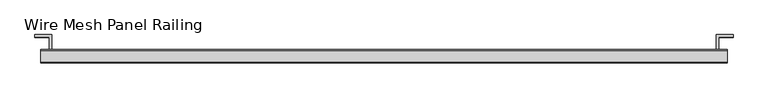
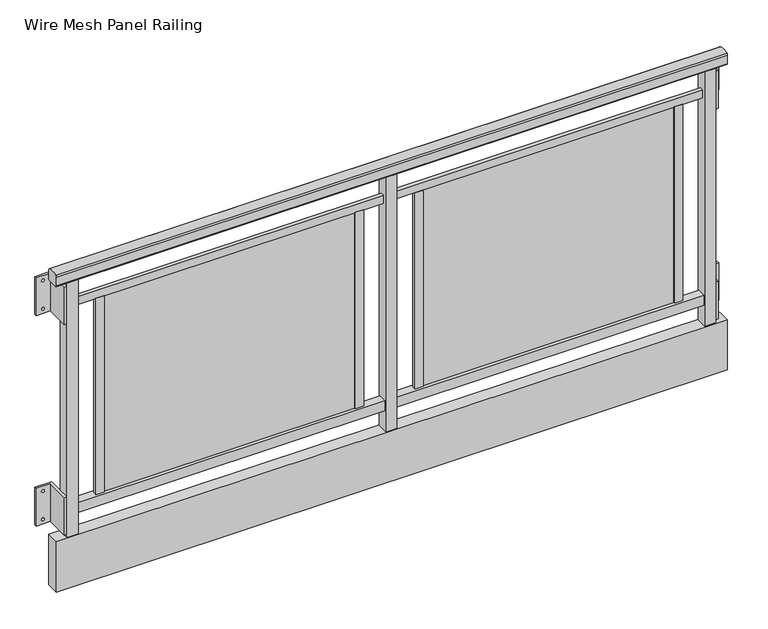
"""IFC4 building model written with IfcOpenShell, lengths in millimetres: proxy geometry, Specialty-Equipment_Endurable-Building-Products_Juliet-Balconies : Wire Mesh Panel Railing."""

from ifc_helpers import new_model, si_unit, point, frame, frame_2d, origin, origin_with_axes, place, context, project, spatial, polyline, circle_curve, trimmed, segment, composite_curve, outline, extrude, source, transform, mapped, element, save
from ifc_brep_helpers import plane_surface, revolved_surface, advanced_brep


def wire_mesh_panel_railing_0f272c87(model_context):
    return source(origin(), model_context, "Body", "SolidModel", [
        extrude(outline(polyline([(97.63125, -73.10755), (129.38125, -73.10755), (129.38125, -87.22995), (97.63125, -87.22995), (97.63125, -73.10755)])), frame((0.0, 0.0, 114.3), z_axis=(0.0, 0.0, 1.0), x_axis=(1.0, 0.0, 0.0)), (0.0, 0.0, 1.0), 802.1066),
        extrude(outline(polyline([(1121.56875, -73.10755), (1121.56875, -87.22995), (1089.81875, -87.22995), (1089.81875, -73.10755), (1121.56875, -73.10755)])), frame((0.0, 0.0, 114.3), z_axis=(0.0, 0.0, 1.0), x_axis=(1.0, 0.0, 0.0)), (0.0, 0.0, 1.0), 802.1066),
        extrude(outline(polyline([(-97.63125, -73.10755), (-97.63125, -87.22995), (-129.38125, -87.22995), (-129.38125, -73.10755), (-97.63125, -73.10755)])), frame((0.0, 0.0, 114.3), z_axis=(0.0, 0.0, 1.0), x_axis=(1.0, 0.0, 0.0)), (0.0, 0.0, 1.0), 802.1066),
        extrude(outline(polyline([(-1121.56875, -73.10755), (-1089.81875, -73.10755), (-1089.81875, -87.22995), (-1121.56875, -87.22995), (-1121.56875, -73.10755)])), frame((0.0, 0.0, 114.3), z_axis=(0.0, 0.0, 1.0), x_axis=(1.0, 0.0, 0.0)), (0.0, 0.0, 1.0), 802.1066),
        extrude(outline(polyline([(1197.76875, -73.10755), (1197.76875, -87.22995), (21.43125, -87.22995), (21.43125, -73.10755), (1197.76875, -73.10755)])), frame((0.0, 0.0, 916.4066), z_axis=(0.0, 0.0, 1.0), x_axis=(1.0, 0.0, 0.0)), (0.0, 0.0, 1.0), 31.75),
        extrude(outline(polyline([(-1197.76875, -73.10755), (-21.43125, -73.10755), (-21.43125, -87.22995), (-1197.76875, -87.22995), (-1197.76875, -73.10755)])), frame((0.0, 0.0, 916.4066), z_axis=(0.0, 0.0, 1.0), x_axis=(1.0, 0.0, 0.0)), (0.0, 0.0, 1.0), 31.75),
        extrude(outline(polyline([(1121.56875, -76.99375), (1121.56875, -83.34375), (97.63125, -83.34375), (97.63125, -76.99375), (1121.56875, -76.99375)])), frame((0.0, 0.0, 122.936), z_axis=(0.0, 0.0, 1.0), x_axis=(1.0, 0.0, 0.0)), (0.0, 0.0, 1.0), 793.4523438),
        extrude(outline(polyline([(-1121.56875, -76.99375), (-97.63125, -76.99375), (-97.63125, -83.34375), (-1121.56875, -83.34375), (-1121.56875, -76.99375)])), frame((0.0, 0.0, 122.936), z_axis=(0.0, 0.0, 1.0), x_axis=(1.0, 0.0, 0.0)), (0.0, 0.0, 1.0), 793.4523437),
        extrude(outline(polyline([(21.43125, -63.86195), (1197.76875, -63.86195), (1197.76875, -96.47555), (21.43125, -96.47555), (21.43125, -63.86195)])), frame((0.0, 0.0, 82.55), z_axis=(0.0, 0.0, 1.0), x_axis=(1.0, 0.0, 0.0)), (0.0, 0.0, 1.0), 40.386),
        extrude(outline(polyline([(-1197.76875, -63.86195), (-21.43125, -63.86195), (-21.43125, -96.47555), (-1197.76875, -96.47555), (-1197.76875, -63.86195)])), frame((0.0, 0.0, 82.55), z_axis=(0.0, 0.0, 1.0), x_axis=(1.0, 0.0, 0.0)), (0.0, 0.0, 1.0), 40.386),
        extrude(outline(polyline([(21.43125, -58.7375), (21.43125, -101.6), (-21.43125, -101.6), (-21.43125, -58.7375), (21.43125, -58.7375)])), origin_with_axes(), (0.0, 0.0, 1.0), 1028.7),
        extrude(outline(polyline([(1282.7, -54.76875), (1282.7, -105.56875), (-1282.7, -105.56875), (-1282.7, -54.76875), (1282.7, -54.76875)])), frame((0.0, 0.0, -203.2), z_axis=(0.0, 0.0, 1.0), x_axis=(1.0, 0.0, 0.0)), (0.0, 0.0, 1.0), 203.2),
        extrude(outline(polyline([(-1197.76875, -58.7375), (-1197.76875, -101.6), (-1240.63125, -101.6), (-1240.63125, -58.7375), (-1197.76875, -58.7375)])), origin_with_axes(), (0.0, 0.0, 1.0), 1028.7),
        extrude(outline(polyline([(1240.63125, -58.7375), (1240.63125, -101.6), (1197.76875, -101.6), (1197.76875, -58.7375), (1240.63125, -58.7375)])), origin_with_axes(), (0.0, 0.0, 1.0), 1028.7),
        extrude(outline(composite_curve([segment(polyline([(-54.76875, 1069.1003287), (-54.76875, 1035.05)]), True, "CONTINUOUS"), segment(trimmed(circle_curve(frame_2d((-61.11875, 1035.05)), 6.35), [point((-54.76875, 1035.05))], [point((-61.11875, 1028.7))], False, "CARTESIAN"), True, "CONTINUOUS"), segment(polyline([(-61.11875, 1028.7), (-99.21875, 1028.7)]), True, "CONTINUOUS"), segment(trimmed(circle_curve(frame_2d((-99.21875, 1035.05)), 6.35), [point((-99.21875, 1028.7))], [point((-105.56875, 1035.05))], False, "CARTESIAN"), True, "CONTINUOUS"), segment(polyline([(-105.56875, 1035.05), (-105.56875, 1069.1003287)]), True, "CONTINUOUS"), segment(trimmed(circle_curve(frame_2d((-99.21875, 1069.1003287)), 6.35), [point((-105.56875, 1069.1003287))], [point((-101.8018008, 1074.9012207))], False, "CARTESIAN"), True, "CONTINUOUS"), segment(trimmed(circle_curve(frame_2d((-80.16875, 1026.31875)), 53.18125), [point((-101.8018008, 1074.9012207))], [point((-58.5356992, 1074.9012207))], False, "CARTESIAN"), True, "CONTINUOUS"), segment(trimmed(circle_curve(frame_2d((-61.11875, 1069.1003287)), 6.35), [point((-58.5356992, 1074.9012207))], [point((-54.76875, 1069.1003287))], False, "CARTESIAN"), True, "CONTINUOUS")], self_intersect=False)), frame((-1282.7, 0.0, 0.0), z_axis=(1.0, 0.0, 0.0), x_axis=(0.0, 1.0, 0.0)), (0.0, 0.0, 1.0), 2565.4),
        advanced_brep(
        [(1240.63125, -101.6, 165.1), (1250.15625, -101.6, 165.1), (1250.15625, -9.525, 165.1), (1304.13125, -9.525, 165.1), (1304.13125, 0.0, 165.1), (1240.63125, 0.0, 165.1), (1240.63125, -101.6, 12.7), (1240.63125, 0.0, 12.7), (1304.13125, 0.0, 12.7), (1304.13125, -9.525, 12.7), (1250.15625, -9.525, 12.7), (1250.15625, -101.6, 12.7), (1273.175, 0.0, 146.05), (1284.2875, 0.0, 146.05), (1273.175, 0.0, 31.75), (1284.2875, 0.0, 31.75), (1284.2875, -9.525, 146.05), (1273.175, -9.525, 146.05), (1284.2875, -9.525, 31.75), (1273.175, -9.525, 31.75)],
        [
            (0, 1),
            (1, 2),
            (2, 3),
            (3, 4),
            (4, 5),
            (5, 0),
            (6, 7),
            (7, 8),
            (8, 9),
            (9, 10),
            (10, 11),
            (11, 6),
            (5, 7),
            (6, 0),
            (4, 8),
            (12, 13, circle_curve(frame((1278.73125, 0.0, 146.05), z_axis=(0.0, -1.0, 0.0), x_axis=(-1.0, 0.0, 0.0)), 5.55625)),
            (13, 12, circle_curve(frame((1278.73125, 0.0, 146.05), z_axis=(0.0, -1.0, 0.0), x_axis=(-1.0, 0.0, 0.0)), 5.55625)),
            (14, 15, circle_curve(frame((1278.73125, 0.0, 31.75), z_axis=(0.0, -1.0, 0.0), x_axis=(-1.0, 0.0, 0.0)), 5.55625)),
            (15, 14, circle_curve(frame((1278.73125, 0.0, 31.75), z_axis=(0.0, -1.0, 0.0), x_axis=(-1.0, 0.0, 0.0)), 5.55625)),
            (3, 9),
            (2, 10),
            (16, 17, circle_curve(frame((1278.73125, -9.525, 146.05), z_axis=(0.0, 1.0, 0.0), x_axis=(-1.0, 0.0, 0.0)), 5.55625)),
            (17, 16, circle_curve(frame((1278.73125, -9.525, 146.05), z_axis=(0.0, 1.0, 0.0), x_axis=(-1.0, 0.0, 0.0)), 5.55625)),
            (18, 19, circle_curve(frame((1278.73125, -9.525, 31.75), z_axis=(0.0, 1.0, 0.0), x_axis=(-1.0, 0.0, 0.0)), 5.55625)),
            (19, 18, circle_curve(frame((1278.73125, -9.525, 31.75), z_axis=(0.0, 1.0, 0.0), x_axis=(-1.0, 0.0, 0.0)), 5.55625)),
            (1, 11),
            (16, 13),
            (12, 17),
            (18, 15),
            (14, 19),
        ],
        [
            plane_surface(frame((1240.63125, -101.6, 165.1), z_axis=(0.0, 0.0, 1.0), x_axis=(1.0, 0.0, 0.0))),
            plane_surface(frame((1240.63125, -101.6, 12.7), z_axis=(0.0, 0.0, -1.0), x_axis=(-1.0, 0.0, 0.0))),
            plane_surface(frame((1240.63125, 0.0, 165.1), z_axis=(-1.0, 0.0, 0.0), x_axis=(0.0, 0.0, -1.0))),
            plane_surface(frame((1304.13125, 0.0, 165.1), z_axis=(0.0, 1.0, 0.0), x_axis=(0.0, 0.0, -1.0))),
            plane_surface(frame((1304.13125, -9.525, 165.1), z_axis=(1.0, 0.0, 0.0), x_axis=(0.0, 0.0, -1.0))),
            plane_surface(frame((1250.15625, -9.525, 165.1), z_axis=(0.0, -1.0, 0.0), x_axis=(0.0, 0.0, -1.0))),
            plane_surface(frame((1250.15625, -101.6, 165.1), z_axis=(1.0, 0.0, 0.0), x_axis=(0.0, 0.0, -1.0))),
            plane_surface(frame((1240.63125, -101.6, 165.1), z_axis=(0.0, -1.0, 0.0), x_axis=(0.0, 0.0, -1.0))),
            revolved_surface(polyline([(1273.175, -9.525, 146.05), (1273.175, 0.0, 146.05)]), (1278.73125, 0.0, 146.05), (0.0, -1.0, 0.0)),
            revolved_surface(polyline([(1273.175, -9.525, 31.75), (1273.175, 0.0, 31.75)]), (1278.73125, 0.0, 31.75), (0.0, -1.0, 0.0)),
        ],
        [
            (0, [[1, 2, 3, 4, 5, 6]]),
            (1, [[7, 8, 9, 10, 11, 12]]),
            (2, [[-6, 13, -7, 14]]),
            (3, [[-5, 15, -8, -13], [16, 17], [18, 19]]),
            (4, [[-4, 20, -9, -15]]),
            (5, [[-3, 21, -10, -20], [22, 23], [24, 25]]),
            (6, [[-2, 26, -11, -21]]),
            (7, [[-1, -14, -12, -26]]),
            (8, [[27, -16, 28, -22]]),
            (8, [[-27, -23, -28, -17]]),
            (9, [[29, -18, 30, -24]]),
            (9, [[-29, -25, -30, -19]]),
        ],
    ),
        advanced_brep(
        [(1240.63125, -101.6, 1016.0), (1250.15625, -101.6, 1016.0), (1250.15625, -9.525, 1016.0), (1304.13125, -9.525, 1016.0), (1304.13125, 0.0, 1016.0), (1240.63125, 0.0, 1016.0), (1240.63125, -101.6, 863.6), (1240.63125, 0.0, 863.6), (1304.13125, 0.0, 863.6), (1304.13125, -9.525, 863.6), (1250.15625, -9.525, 863.6), (1250.15625, -101.6, 863.6), (1273.175, 0.0, 996.95), (1284.2875, 0.0, 996.95), (1273.175, 0.0, 882.65), (1284.2875, 0.0, 882.65), (1284.2875, -9.525, 996.95), (1273.175, -9.525, 996.95), (1284.2875, -9.525, 882.65), (1273.175, -9.525, 882.65)],
        [
            (0, 1),
            (1, 2),
            (2, 3),
            (3, 4),
            (4, 5),
            (5, 0),
            (6, 7),
            (7, 8),
            (8, 9),
            (9, 10),
            (10, 11),
            (11, 6),
            (5, 7),
            (6, 0),
            (4, 8),
            (12, 13, circle_curve(frame((1278.73125, 0.0, 996.95), z_axis=(0.0, -1.0, 0.0), x_axis=(-1.0, 0.0, 0.0)), 5.55625)),
            (13, 12, circle_curve(frame((1278.73125, 0.0, 996.95), z_axis=(0.0, -1.0, 0.0), x_axis=(-1.0, 0.0, 0.0)), 5.55625)),
            (14, 15, circle_curve(frame((1278.73125, 0.0, 882.65), z_axis=(0.0, -1.0, 0.0), x_axis=(-1.0, 0.0, 0.0)), 5.55625)),
            (15, 14, circle_curve(frame((1278.73125, 0.0, 882.65), z_axis=(0.0, -1.0, 0.0), x_axis=(-1.0, 0.0, 0.0)), 5.55625)),
            (3, 9),
            (2, 10),
            (16, 17, circle_curve(frame((1278.73125, -9.525, 996.95), z_axis=(0.0, 1.0, 0.0), x_axis=(-1.0, 0.0, 0.0)), 5.55625)),
            (17, 16, circle_curve(frame((1278.73125, -9.525, 996.95), z_axis=(0.0, 1.0, 0.0), x_axis=(-1.0, 0.0, 0.0)), 5.55625)),
            (18, 19, circle_curve(frame((1278.73125, -9.525, 882.65), z_axis=(0.0, 1.0, 0.0), x_axis=(-1.0, 0.0, 0.0)), 5.55625)),
            (19, 18, circle_curve(frame((1278.73125, -9.525, 882.65), z_axis=(0.0, 1.0, 0.0), x_axis=(-1.0, 0.0, 0.0)), 5.55625)),
            (1, 11),
            (16, 13),
            (12, 17),
            (18, 15),
            (14, 19),
        ],
        [
            plane_surface(frame((1240.63125, -101.6, 1016.0), z_axis=(0.0, 0.0, 1.0), x_axis=(1.0, 0.0, 0.0))),
            plane_surface(frame((1240.63125, -101.6, 863.6), z_axis=(0.0, 0.0, -1.0), x_axis=(-1.0, 0.0, 0.0))),
            plane_surface(frame((1240.63125, 0.0, 1016.0), z_axis=(-1.0, 0.0, 0.0), x_axis=(0.0, 0.0, -1.0))),
            plane_surface(frame((1304.13125, 0.0, 1016.0), z_axis=(0.0, 1.0, 0.0), x_axis=(0.0, 0.0, -1.0))),
            plane_surface(frame((1304.13125, -9.525, 1016.0), z_axis=(1.0, 0.0, 0.0), x_axis=(0.0, 0.0, -1.0))),
            plane_surface(frame((1250.15625, -9.525, 1016.0), z_axis=(0.0, -1.0, 0.0), x_axis=(0.0, 0.0, -1.0))),
            plane_surface(frame((1250.15625, -101.6, 1016.0), z_axis=(1.0, 0.0, 0.0), x_axis=(0.0, 0.0, -1.0))),
            plane_surface(frame((1240.63125, -101.6, 1016.0), z_axis=(0.0, -1.0, 0.0), x_axis=(0.0, 0.0, -1.0))),
            revolved_surface(polyline([(1273.175, -9.525, 996.95), (1273.175, 0.0, 996.95)]), (1278.73125, 0.0, 996.95), (0.0, -1.0, 0.0)),
            revolved_surface(polyline([(1273.175, -9.525, 882.65), (1273.175, 0.0, 882.65)]), (1278.73125, 0.0, 882.65), (0.0, -1.0, 0.0)),
        ],
        [
            (0, [[1, 2, 3, 4, 5, 6]]),
            (1, [[7, 8, 9, 10, 11, 12]]),
            (2, [[-6, 13, -7, 14]]),
            (3, [[-5, 15, -8, -13], [16, 17], [18, 19]]),
            (4, [[-4, 20, -9, -15]]),
            (5, [[-3, 21, -10, -20], [22, 23], [24, 25]]),
            (6, [[-2, 26, -11, -21]]),
            (7, [[-1, -14, -12, -26]]),
            (8, [[27, -16, 28, -22]]),
            (8, [[-27, -23, -28, -17]]),
            (9, [[29, -18, 30, -24]]),
            (9, [[-29, -25, -30, -19]]),
        ],
    ),
        advanced_brep(
        [(-1240.63125, -101.6, 165.1), (-1240.63125, 0.0, 165.1), (-1304.13125, 0.0, 165.1), (-1304.13125, -9.525, 165.1), (-1250.15625, -9.525, 165.1), (-1250.15625, -101.6, 165.1), (-1240.63125, -101.6, 12.7), (-1250.15625, -101.6, 12.7), (-1250.15625, -9.525, 12.7), (-1304.13125, -9.525, 12.7), (-1304.13125, 0.0, 12.7), (-1240.63125, 0.0, 12.7), (-1284.2875, 0.0, 146.05), (-1273.175, 0.0, 146.05), (-1284.2875, 0.0, 31.75), (-1273.175, 0.0, 31.75), (-1273.175, -9.525, 146.05), (-1284.2875, -9.525, 146.05), (-1273.175, -9.525, 31.75), (-1284.2875, -9.525, 31.75)],
        [
            (0, 1),
            (1, 2),
            (2, 3),
            (3, 4),
            (4, 5),
            (5, 0),
            (6, 7),
            (7, 8),
            (8, 9),
            (9, 10),
            (10, 11),
            (11, 6),
            (0, 6),
            (11, 1),
            (10, 2),
            (12, 13, circle_curve(frame((-1278.73125, 0.0, 146.05), z_axis=(0.0, -1.0, 0.0), x_axis=(1.0, 0.0, 0.0)), 5.55625)),
            (13, 12, circle_curve(frame((-1278.73125, 0.0, 146.05), z_axis=(0.0, -1.0, 0.0), x_axis=(1.0, 0.0, 0.0)), 5.55625)),
            (14, 15, circle_curve(frame((-1278.73125, 0.0, 31.75), z_axis=(0.0, -1.0, 0.0), x_axis=(1.0, 0.0, 0.0)), 5.55625)),
            (15, 14, circle_curve(frame((-1278.73125, 0.0, 31.75), z_axis=(0.0, -1.0, 0.0), x_axis=(1.0, 0.0, 0.0)), 5.55625)),
            (9, 3),
            (8, 4),
            (16, 17, circle_curve(frame((-1278.73125, -9.525, 146.05), z_axis=(0.0, 1.0, 0.0), x_axis=(1.0, 0.0, 0.0)), 5.55625)),
            (17, 16, circle_curve(frame((-1278.73125, -9.525, 146.05), z_axis=(0.0, 1.0, 0.0), x_axis=(1.0, 0.0, 0.0)), 5.55625)),
            (18, 19, circle_curve(frame((-1278.73125, -9.525, 31.75), z_axis=(0.0, 1.0, 0.0), x_axis=(1.0, 0.0, 0.0)), 5.55625)),
            (19, 18, circle_curve(frame((-1278.73125, -9.525, 31.75), z_axis=(0.0, 1.0, 0.0), x_axis=(1.0, 0.0, 0.0)), 5.55625)),
            (7, 5),
            (16, 13),
            (12, 17),
            (18, 15),
            (14, 19),
        ],
        [
            plane_surface(frame((-1240.63125, 0.0, 165.1), z_axis=(0.0, 0.0, 1.0), x_axis=(0.0, 1.0, 0.0))),
            plane_surface(frame((-1240.63125, 0.0, 12.7), z_axis=(0.0, 0.0, -1.0), x_axis=(0.0, -1.0, 0.0))),
            plane_surface(frame((-1240.63125, -101.6, 165.1), z_axis=(1.0, 0.0, 0.0), x_axis=(0.0, 0.0, -1.0))),
            plane_surface(frame((-1240.63125, 0.0, 165.1), z_axis=(0.0, 1.0, 0.0), x_axis=(0.0, 0.0, -1.0))),
            plane_surface(frame((-1304.13125, 0.0, 165.1), z_axis=(-1.0, 0.0, 0.0), x_axis=(0.0, 0.0, -1.0))),
            plane_surface(frame((-1304.13125, -9.525, 165.1), z_axis=(0.0, -1.0, 0.0), x_axis=(0.0, 0.0, -1.0))),
            plane_surface(frame((-1250.15625, -9.525, 165.1), z_axis=(-1.0, 0.0, 0.0), x_axis=(0.0, 0.0, -1.0))),
            plane_surface(frame((-1250.15625, -101.6, 165.1), z_axis=(0.0, -1.0, 0.0), x_axis=(0.0, 0.0, -1.0))),
            revolved_surface(polyline([(-1273.175, -9.525, 146.05), (-1273.175, 0.0, 146.05)]), (-1278.73125, 0.0, 146.05), (0.0, -1.0, 0.0)),
            revolved_surface(polyline([(-1273.175, -9.525, 31.75), (-1273.175, 0.0, 31.75)]), (-1278.73125, 0.0, 31.75), (0.0, -1.0, 0.0)),
        ],
        [
            (0, [[1, 2, 3, 4, 5, 6]]),
            (1, [[7, 8, 9, 10, 11, 12]]),
            (2, [[-1, 13, -12, 14]]),
            (3, [[-2, -14, -11, 15], [16, 17], [18, 19]]),
            (4, [[-3, -15, -10, 20]]),
            (5, [[-4, -20, -9, 21], [22, 23], [24, 25]]),
            (6, [[-5, -21, -8, 26]]),
            (7, [[-6, -26, -7, -13]]),
            (8, [[27, -16, 28, -22]]),
            (8, [[-27, -23, -28, -17]]),
            (9, [[29, -18, 30, -24]]),
            (9, [[-29, -25, -30, -19]]),
        ],
    ),
        advanced_brep(
        [(-1240.63125, -101.6, 1016.0), (-1240.63125, 0.0, 1016.0), (-1304.13125, 0.0, 1016.0), (-1304.13125, -9.525, 1016.0), (-1250.15625, -9.525, 1016.0), (-1250.15625, -101.6, 1016.0), (-1240.63125, -101.6, 863.6), (-1250.15625, -101.6, 863.6), (-1250.15625, -9.525, 863.6), (-1304.13125, -9.525, 863.6), (-1304.13125, 0.0, 863.6), (-1240.63125, 0.0, 863.6), (-1284.2875, 0.0, 996.95), (-1273.175, 0.0, 996.95), (-1284.2875, 0.0, 882.65), (-1273.175, 0.0, 882.65), (-1273.175, -9.525, 996.95), (-1284.2875, -9.525, 996.95), (-1273.175, -9.525, 882.65), (-1284.2875, -9.525, 882.65)],
        [
            (0, 1),
            (1, 2),
            (2, 3),
            (3, 4),
            (4, 5),
            (5, 0),
            (6, 7),
            (7, 8),
            (8, 9),
            (9, 10),
            (10, 11),
            (11, 6),
            (0, 6),
            (11, 1),
            (10, 2),
            (12, 13, circle_curve(frame((-1278.73125, 0.0, 996.95), z_axis=(0.0, -1.0, 0.0), x_axis=(1.0, 0.0, 0.0)), 5.55625)),
            (13, 12, circle_curve(frame((-1278.73125, 0.0, 996.95), z_axis=(0.0, -1.0, 0.0), x_axis=(1.0, 0.0, 0.0)), 5.55625)),
            (14, 15, circle_curve(frame((-1278.73125, 0.0, 882.65), z_axis=(0.0, -1.0, 0.0), x_axis=(1.0, 0.0, 0.0)), 5.55625)),
            (15, 14, circle_curve(frame((-1278.73125, 0.0, 882.65), z_axis=(0.0, -1.0, 0.0), x_axis=(1.0, 0.0, 0.0)), 5.55625)),
            (9, 3),
            (8, 4),
            (16, 17, circle_curve(frame((-1278.73125, -9.525, 996.95), z_axis=(0.0, 1.0, 0.0), x_axis=(1.0, 0.0, 0.0)), 5.55625)),
            (17, 16, circle_curve(frame((-1278.73125, -9.525, 996.95), z_axis=(0.0, 1.0, 0.0), x_axis=(1.0, 0.0, 0.0)), 5.55625)),
            (18, 19, circle_curve(frame((-1278.73125, -9.525, 882.65), z_axis=(0.0, 1.0, 0.0), x_axis=(1.0, 0.0, 0.0)), 5.55625)),
            (19, 18, circle_curve(frame((-1278.73125, -9.525, 882.65), z_axis=(0.0, 1.0, 0.0), x_axis=(1.0, 0.0, 0.0)), 5.55625)),
            (7, 5),
            (16, 13),
            (12, 17),
            (18, 15),
            (14, 19),
        ],
        [
            plane_surface(frame((-1240.63125, 0.0, 1016.0), z_axis=(0.0, 0.0, 1.0), x_axis=(0.0, 1.0, 0.0))),
            plane_surface(frame((-1240.63125, 0.0, 863.6), z_axis=(0.0, 0.0, -1.0), x_axis=(0.0, -1.0, 0.0))),
            plane_surface(frame((-1240.63125, -101.6, 1016.0), z_axis=(1.0, 0.0, 0.0), x_axis=(0.0, 0.0, -1.0))),
            plane_surface(frame((-1240.63125, 0.0, 1016.0), z_axis=(0.0, 1.0, 0.0), x_axis=(0.0, 0.0, -1.0))),
            plane_surface(frame((-1304.13125, 0.0, 1016.0), z_axis=(-1.0, 0.0, 0.0), x_axis=(0.0, 0.0, -1.0))),
            plane_surface(frame((-1304.13125, -9.525, 1016.0), z_axis=(0.0, -1.0, 0.0), x_axis=(0.0, 0.0, -1.0))),
            plane_surface(frame((-1250.15625, -9.525, 1016.0), z_axis=(-1.0, 0.0, 0.0), x_axis=(0.0, 0.0, -1.0))),
            plane_surface(frame((-1250.15625, -101.6, 1016.0), z_axis=(0.0, -1.0, 0.0), x_axis=(0.0, 0.0, -1.0))),
            revolved_surface(polyline([(-1273.175, -9.525, 996.95), (-1273.175, 0.0, 996.95)]), (-1278.73125, 0.0, 996.95), (0.0, -1.0, 0.0)),
            revolved_surface(polyline([(-1273.175, -9.525, 882.65), (-1273.175, 0.0, 882.65)]), (-1278.73125, 0.0, 882.65), (0.0, -1.0, 0.0)),
        ],
        [
            (0, [[1, 2, 3, 4, 5, 6]]),
            (1, [[7, 8, 9, 10, 11, 12]]),
            (2, [[-1, 13, -12, 14]]),
            (3, [[-2, -14, -11, 15], [16, 17], [18, 19]]),
            (4, [[-3, -15, -10, 20]]),
            (5, [[-4, -20, -9, 21], [22, 23], [24, 25]]),
            (6, [[-5, -21, -8, 26]]),
            (7, [[-6, -26, -7, -13]]),
            (8, [[27, -16, 28, -22]]),
            (8, [[-27, -23, -28, -17]]),
            (9, [[29, -18, 30, -24]]),
            (9, [[-29, -25, -30, -19]]),
        ],
    ),
    ])


if __name__ == "__main__":
    model = new_model("IFC4")
    model_context = context("Model", 3, world=origin())
    ifc_project = project(units=[si_unit("LENGTHUNIT", "METRE", prefix="MILLI")], contexts=[model_context])
    site = spatial("IfcSite", under=ifc_project)
    building = spatial("IfcBuilding", under=site)
    placement = place(None, origin())
    wire_mesh_panel_railing_shape = wire_mesh_panel_railing_0f272c87(model_context)
    element("IfcBuildingElementProxy", 1, Name="Specialty-Equipment_Endurable-Building-Products_Juliet-Balconies : Wire Mesh Panel Railing", ObjectType="Specialty-Equipment_Endurable-Building-Products_Juliet-Balconies : Wire Mesh Panel Railing", at=placement, inside=building, context=model_context, shape_type="MappedRepresentation", body=[
        mapped(wire_mesh_panel_railing_shape, transform((0.0, 0.0, 0.0), x_axis=(1.0, 0.0, 0.0), y_axis=(0.0, 1.0, 0.0), z_axis=(0.0, 0.0, 1.0))),
    ])
    save(model, "model.ifc")
